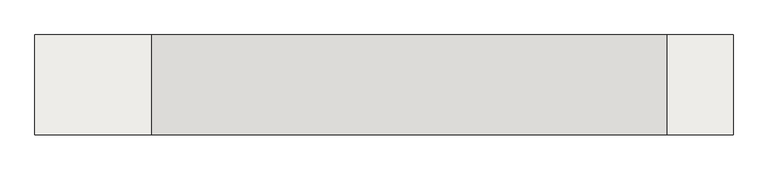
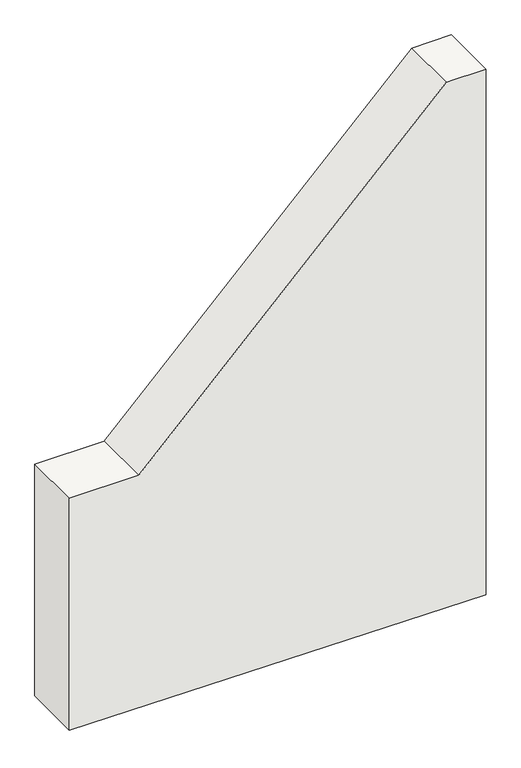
"""IFC4 building model written with IfcOpenShell, lengths in millimetres: slab geometry, Mur 2 Amont : Mur 2 Amont."""

from ifc_helpers import new_model, si_unit, frame, origin, place, context, project, spatial, polyline, outline, extrude, source, transform, mapped, element, save


def slab_f753cc61(model_context):
    return source(origin(), model_context, "Body", "SweptSolid", [
        extrude(outline(polyline([(153958.1545215, -18720.0), (156758.0, -18720.0), (156758.0, -18920.0), (155208.0, -20470.0), (155208.0, -20820.0), (153974.3792801, -20820.0), (153958.1545215, -18720.0)])), frame((0.0, 1500.0, 0.0), z_axis=(0.0, 1.0, 0.0), x_axis=(0.0, 0.0, 1.0)), (0.0, 0.0, 1.0), 300.0),
    ])


if __name__ == "__main__":
    model = new_model("IFC4")
    model_context = context("Model", 3, world=origin())
    ifc_project = project(units=[si_unit("LENGTHUNIT", "METRE", prefix="MILLI")], contexts=[model_context])
    site = spatial("IfcSite", under=ifc_project)
    building = spatial("IfcBuilding", under=site)
    placement = place(None, origin())
    slab_shape = slab_f753cc61(model_context)
    element("IfcSlab", 1, ObjectType="Mur 2 Amont : Mur 2 Amont", at=placement, inside=building, context=model_context, shape_type="MappedRepresentation", body=[
        mapped(slab_shape, transform((0.0, 0.0, 0.0), x_axis=(1.0, 0.0, 0.0), y_axis=(0.0, 1.0, 0.0), z_axis=(0.0, 0.0, 1.0))),
    ])
    save(model, "model.ifc")
